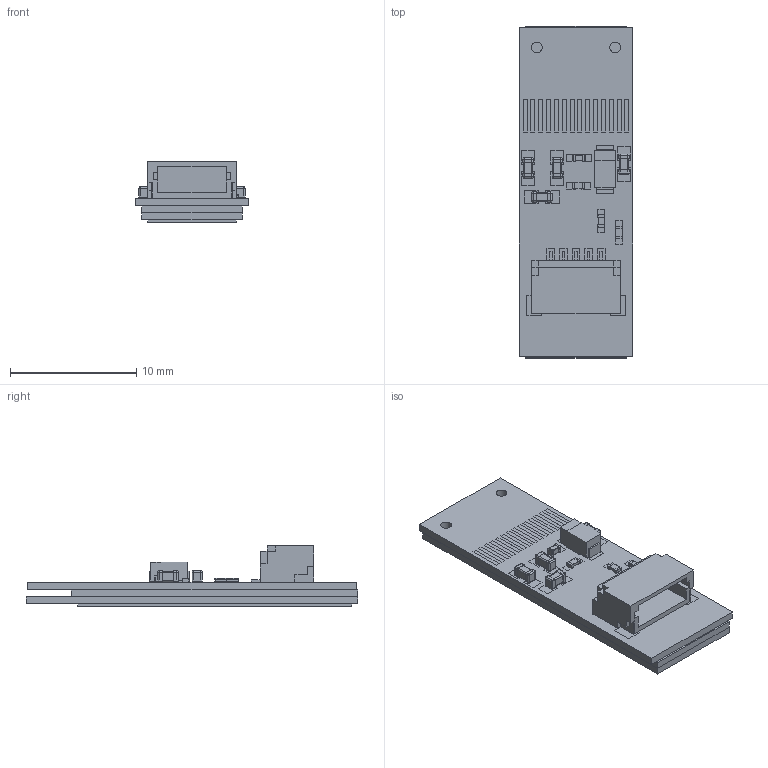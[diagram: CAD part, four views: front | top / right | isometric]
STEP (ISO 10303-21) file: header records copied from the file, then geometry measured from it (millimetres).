
FILE_DESCRIPTION(('FreeCAD Model'),'2;1');
FILE_NAME('/home/devy/MEGA/TinyCircuits/Assets/BoardsANDBoardModels_2/Wirelings/TinyCircuits-Wireling-0.69-Screen-OLED-AST1014/cad/Wireling_0.69OLED_AST1014_REV1-STEP.step','2020-07-28T23:48:14',(''),(''), 'Open CASCADE STEP processor 7.4','FreeCAD','Unknown');
FILE_SCHEMA(('AUTOMOTIVE_DESIGN { 1 0 10303 214 1 1 1 1 }'));
Products named in the file (1): Wireling_0.69OLED_AST1014_REV1-STEP
Bounding box: 9 x 26.3 x 4.79 mm (x, y, z)
Volume: 891.2 mm3; surface area: 2658.8 mm2
Topology: 137 solids, 137 shells, 1326 faces, 4340 edges, 4520 vertices
Faces by surface type: plane 1062, cylinder 192, sphere 72
Full cylindrical faces by diameter (mm): 0.852 x4
Entity records: 105590 total; most frequent: CARTESIAN_POINT 18699, DIRECTION 12972, LINE 8328, VECTOR 8328, ORIENTED_EDGE 5800, PCURVE 5800, DEFINITIONAL_REPRESENTATION 5800, EDGE_CURVE 2900
